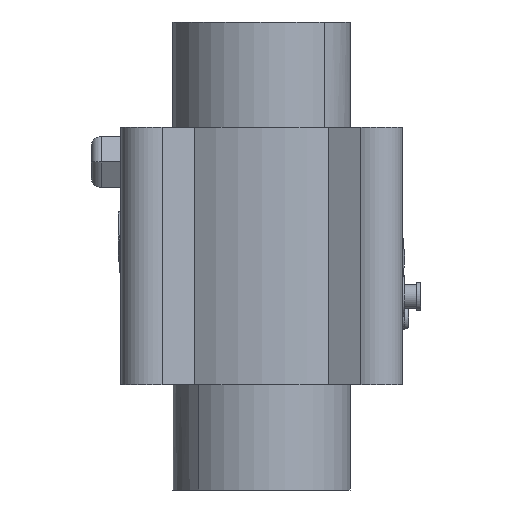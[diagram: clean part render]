
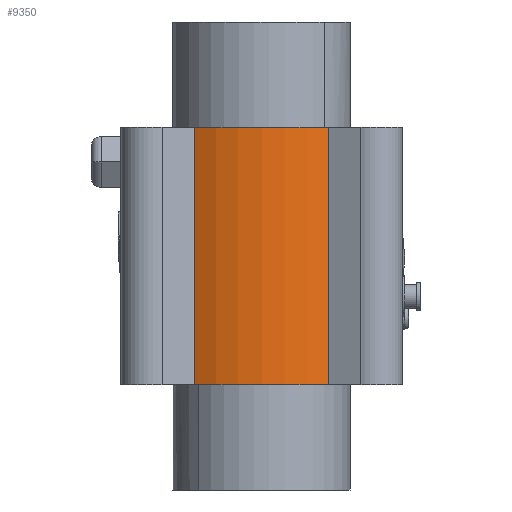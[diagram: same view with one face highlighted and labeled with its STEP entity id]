
A CAD part, front view. The second image highlights one B-rep face of the part: STEP entity #9350.
In plain terms, the highlighted cylindrical face has radius 68 mm (diameter 136 mm), a partial arc.
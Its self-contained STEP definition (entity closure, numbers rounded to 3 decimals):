
#870=CARTESIAN_POINT('',(-65.288,-113.,19.012));
#880=VERTEX_POINT('',#870);
#910=CARTESIAN_POINT('',(0.,-113.,
0.));
#920=DIRECTION('',(0.,1.,0.));
#930=DIRECTION('',(1.,0.,0.));
#940=AXIS2_PLACEMENT_3D('',#910,#920,#930);
#950=CIRCLE('',#940,68.);
#960=CARTESIAN_POINT('',(-19.012,-113.,65.288));
#970=VERTEX_POINT('',#960);
#980=EDGE_CURVE('',#880,#970,#950,.T.);
#4010=CARTESIAN_POINT('',(-19.012,13.,65.288));
#4020=VERTEX_POINT('',#4010);
#4070=CARTESIAN_POINT('',(-19.012,13.,65.288));
#4080=DIRECTION('',(0.,-1.,0.));
#4090=VECTOR('',#4080,1000.);
#4100=LINE('',#4070,#4090);
#4110=EDGE_CURVE('',#4020,#970,#4100,.T.);
#4950=CARTESIAN_POINT('',(-65.288,13.,19.012));
#4960=VERTEX_POINT('',#4950);
#4990=CARTESIAN_POINT('',(-65.288,13.,19.012));
#5000=DIRECTION('',(0.,-1.,0.));
#5010=VECTOR('',#5000,1000.);
#5020=LINE('',#4990,#5010);
#5030=EDGE_CURVE('',#4960,#880,#5020,.T.);
#9180=CARTESIAN_POINT('',(0.,13.,0.));
#9190=DIRECTION('',(0.,-1.,0.));
#9200=DIRECTION('',(0.,0.,-1.));
#9210=AXIS2_PLACEMENT_3D('',#9180,#9190,#9200);
#9220=CYLINDRICAL_SURFACE('',#9210,68.);
#9230=ORIENTED_EDGE('',*,*,#980,.T.);
#9240=ORIENTED_EDGE('',*,*,#5030,.T.);
#9250=CARTESIAN_POINT('',(0.,13.,0.));
#9260=DIRECTION('',(0.,-1.,0.));
#9270=DIRECTION('',(0.,0.,-1.));
#9280=AXIS2_PLACEMENT_3D('',#9250,#9260,#9270);
#9290=CIRCLE('',#9280,68.);
#9300=EDGE_CURVE('',#4020,#4960,#9290,.T.);
#9310=ORIENTED_EDGE('',*,*,#9300,.T.);
#9320=ORIENTED_EDGE('',*,*,#4110,.F.);
#9330=EDGE_LOOP('',(#9320,#9310,#9240,#9230));
#9340=FACE_OUTER_BOUND('',#9330,.T.);
#9350=ADVANCED_FACE('',(#9340),#9220,.T.);
